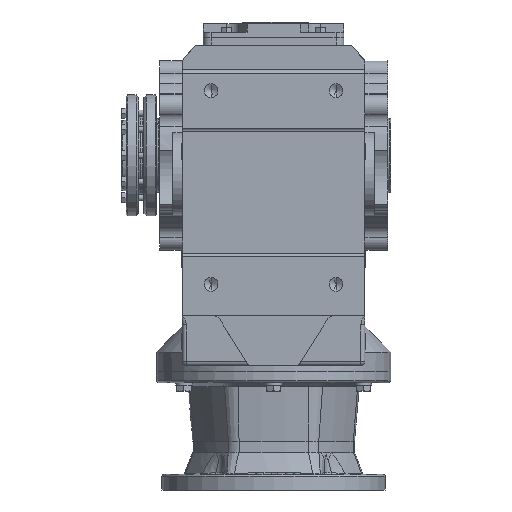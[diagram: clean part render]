
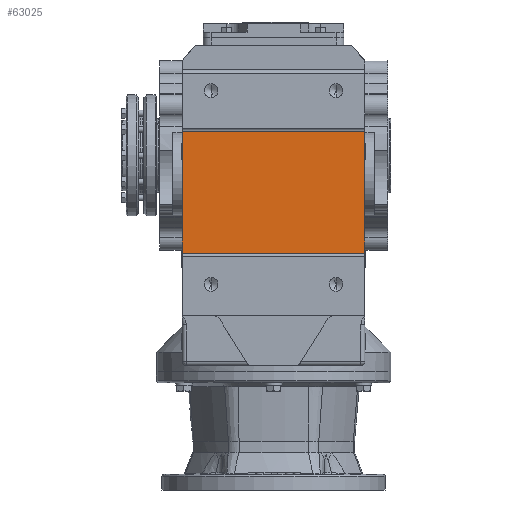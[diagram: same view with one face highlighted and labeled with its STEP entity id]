
A CAD part, front view. The second image highlights one B-rep face of the part: STEP entity #63025.
In plain terms, the highlighted planar face has unit normal (0, -1, 0).
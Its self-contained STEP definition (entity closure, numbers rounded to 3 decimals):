
#8630 = DIRECTION ( 'NONE',  ( 1., 0., 0. ) ) ;
#8636 = CARTESIAN_POINT ( 'NONE',  ( -145., -260., -125. ) ) ;
#8643 = CARTESIAN_POINT ( 'NONE',  ( -117., -260., 31. ) ) ;
#8652 = DIRECTION ( 'NONE',  ( 0., 0., 1. ) ) ;
#8654 = CARTESIAN_POINT ( 'NONE',  ( -145., -260., 31. ) ) ;
#8658 = DIRECTION ( 'NONE',  ( 1., 0., 0. ) ) ;
#8908 = CARTESIAN_POINT ( 'NONE',  ( 117., -260., 31. ) ) ;
#8910 = DIRECTION ( 'NONE',  ( 0., 0., 1. ) ) ;
#12584 = CARTESIAN_POINT ( 'NONE',  ( 117., -260., 31. ) ) ;
#12589 = CARTESIAN_POINT ( 'NONE',  ( 117., -260., -125. ) ) ;
#12605 = CARTESIAN_POINT ( 'NONE',  ( -117., -260., 31. ) ) ;
#12610 = CARTESIAN_POINT ( 'NONE',  ( -117., -260., -125. ) ) ;
#19133 = EDGE_LOOP ( 'NONE', ( #19974, #19975, #19976, #19977 ) ) ;
#19974 = ORIENTED_EDGE ( 'NONE', *, *, #44515, .F. ) ;
#19975 = ORIENTED_EDGE ( 'NONE', *, *, #44513, .F. ) ;
#19976 = ORIENTED_EDGE ( 'NONE', *, *, #44510, .T. ) ;
#19977 = ORIENTED_EDGE ( 'NONE', *, *, #44635, .T. ) ;
#20366 = AXIS2_PLACEMENT_3D ( 'NONE', #54151, #54177, #54179 ) ;
#37939 = VECTOR ( 'NONE', #8910, 1000. ) ;
#37942 = LINE ( 'NONE', #8908, #37939 ) ;
#38036 = VECTOR ( 'NONE', #8658, 1000. ) ;
#38038 = VECTOR ( 'NONE', #8652, 1000. ) ;
#38039 = LINE ( 'NONE', #8654, #38036 ) ;
#38040 = VECTOR ( 'NONE', #8630, 1000. ) ;
#38042 = LINE ( 'NONE', #8636, #38040 ) ;
#38046 = LINE ( 'NONE', #8643, #38038 ) ;
#44510 = EDGE_CURVE ( 'NONE', #50529, #50508, #38042, .T. ) ;
#44513 = EDGE_CURVE ( 'NONE', #50529, #50524, #38046, .T. ) ;
#44515 = EDGE_CURVE ( 'NONE', #50524, #50503, #38039, .T. ) ;
#44635 = EDGE_CURVE ( 'NONE', #50508, #50503, #37942, .T. ) ;
#46120 = FACE_OUTER_BOUND ( 'NONE', #19133, .T. ) ;
#50503 = VERTEX_POINT ( 'NONE', #12584 ) ;
#50508 = VERTEX_POINT ( 'NONE', #12589 ) ;
#50524 = VERTEX_POINT ( 'NONE', #12605 ) ;
#50529 = VERTEX_POINT ( 'NONE', #12610 ) ;
#54151 = CARTESIAN_POINT ( 'NONE',  ( -145., -260., 31. ) ) ;
#54169 = PLANE ( 'NONE',  #20366 ) ;
#54177 = DIRECTION ( 'NONE',  ( 0., -1., 0. ) ) ;
#54179 = DIRECTION ( 'NONE',  ( 0., 0., -1. ) ) ;
#63025 = ADVANCED_FACE ( 'NONE', ( #46120 ), #54169, .T. ) ;
